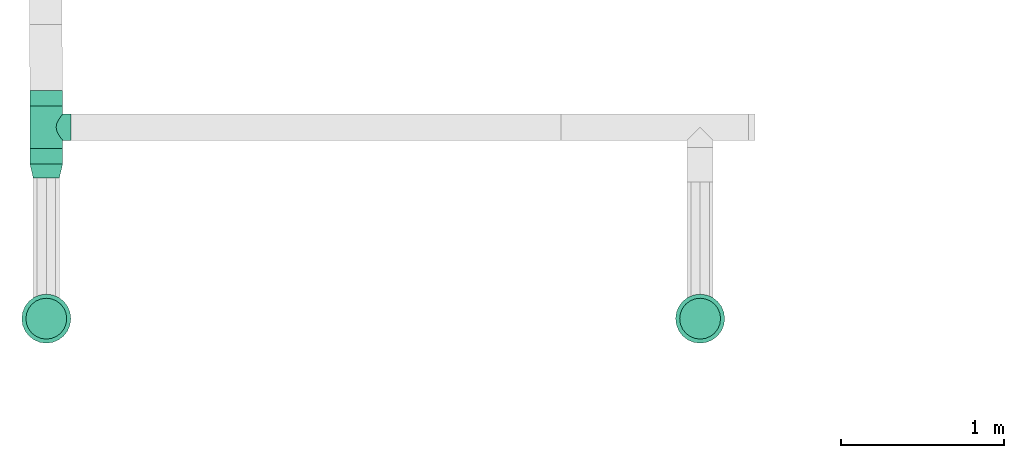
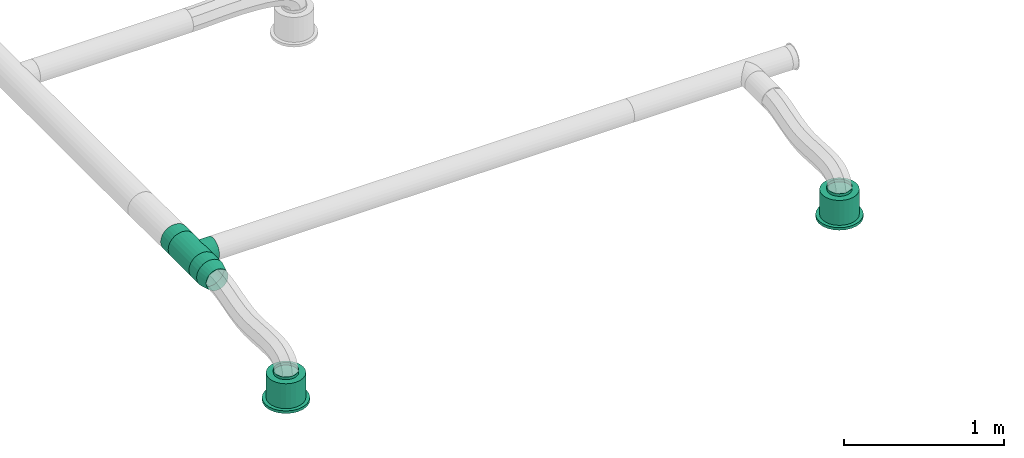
# One storey, part 7 of 119: 2 flow fittings, 2 flow segments, 2 flow terminals.
"""IFC2X3 building model written with IfcOpenShell, lengths in metres."""

from ifc_helpers import new_model, si_unit, direction, frame, origin, place, context, subcontext, project, spatial, open_shell, surface_model, source, transform, mapped, element, save


model = new_model("IFC2X3")

# Units and contexts
model_context = context("Model", 3, precision=1e-05, world=origin(), true_north=direction((-0.4480736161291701, 0.8939966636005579)))
body_context = subcontext(model_context, "Body", "Model", "MODEL_VIEW")
ifc_project = project(units=[si_unit("LENGTHUNIT", "METRE"), si_unit("AREAUNIT", "SQUARE_METRE"), si_unit("VOLUMEUNIT", "CUBIC_METRE"), si_unit("PLANEANGLEUNIT", "RADIAN"), si_unit("THERMODYNAMICTEMPERATUREUNIT", "KELVIN"), si_unit("MASSUNIT", "GRAM", prefix="KILO"), si_unit("TIMEUNIT", "SECOND")], contexts=[model_context])

# Site, building, storey
site_placement = place(None, origin())
site = spatial("IfcSite", under=ifc_project, at=site_placement, Name="Site 1", CompositionType="ELEMENT")
building_placement = place(site_placement, origin())
building = spatial("IfcBuilding", under=site, at=building_placement, Name="Undefined", CompositionType="ELEMENT")
storey_placement = place(building_placement, frame((0.0, 0.0, 5.4)))
storey = spatial("IfcBuildingStorey", under=building, at=storey_placement, Name="R+1", CompositionType="ELEMENT", Elevation=5.4)

# Flow terminals
shared_shape_1 = source(origin(), body_context, "Body", "SurfaceModel", [
    surface_model("IfcFaceBasedSurfaceModel", [(0.0, 0.0, 0.0), (0.03915785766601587, 0.0, 0.0), (0.03915785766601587, 0.020000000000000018, 0.0), (3.552713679e-15, 0.020000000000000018, 0.0), (0.07698144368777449, 0.0, -0.010134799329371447), (0.07698144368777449, 0.020000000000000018, -0.010134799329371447), (0.11089314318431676, 0.0, -0.02971372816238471), (0.11089314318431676, 0.020000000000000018, -0.02971372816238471), (0.13858192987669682, 0.0, -0.05740251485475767), (0.13858192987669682, 0.020000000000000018, -0.05740251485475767), (0.15816085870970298, 0.0, -0.09131421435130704), (0.15816085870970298, 0.020000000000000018, -0.09131421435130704), (0.16829565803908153, 0.0, -0.12913780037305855), (0.16829565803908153, 0.020000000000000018, -0.12913780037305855), (0.16829565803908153, 0.0, -0.16829565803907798), (0.16829565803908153, 0.020000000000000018, -0.16829565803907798), (0.15816085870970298, 0.0, -0.20611924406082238), (0.15816085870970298, 0.020000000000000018, -0.20611924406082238), (0.13858192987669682, 0.0, -0.24003094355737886), (0.13858192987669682, 0.020000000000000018, -0.24003094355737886), (0.11089314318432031, 0.0, -0.2677197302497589), (0.11089314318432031, 0.020000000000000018, -0.2677197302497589), (0.07698144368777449, 0.0, -0.2872986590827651), (0.07698144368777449, 0.020000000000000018, -0.2872986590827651), (0.039157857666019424, 0.0, -0.29743345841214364), (0.039157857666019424, 0.020000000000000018, -0.29743345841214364), (3.552713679e-15, 0.0, -0.29743345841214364), (3.552713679e-15, 0.020000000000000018, -0.29743345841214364), (-0.03782358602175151, 0.0, -0.2872986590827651), (-0.03782358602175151, 0.020000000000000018, -0.2872986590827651), (-0.07173528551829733, 0.0, -0.2677197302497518), (-0.07173528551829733, 0.020000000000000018, -0.2677197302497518), (-0.0994240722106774, 0.0, -0.24003094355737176), (-0.0994240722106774, 0.020000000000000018, -0.24003094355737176), (-0.11900300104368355, 0.0, -0.2061192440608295), (-0.11900300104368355, 0.020000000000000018, -0.2061192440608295), (-0.1291378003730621, 0.0, -0.16829565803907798), (-0.1291378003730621, 0.020000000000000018, -0.16829565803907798), (-0.1291378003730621, 0.0, -0.12913780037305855), (-0.1291378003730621, 0.020000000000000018, -0.12913780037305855), (-0.11900300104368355, 0.0, -0.09131421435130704), (-0.11900300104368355, 0.020000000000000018, -0.09131421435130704), (-0.0994240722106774, 0.0, -0.05740251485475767), (-0.0994240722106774, 0.020000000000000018, -0.05740251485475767), (-0.07173528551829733, 0.0, -0.029713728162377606), (-0.07173528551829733, 0.020000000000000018, -0.029713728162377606), (-0.03782358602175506, 0.0, -0.010134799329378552), (-0.03782358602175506, 0.020000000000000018, -0.010134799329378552), (0.019578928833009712, 0.0, -0.14871672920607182), (0.019578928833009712, 0.020000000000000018, -0.14871672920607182), (0.003263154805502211, 0.020000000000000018, -0.02478612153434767), (0.035894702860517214, 0.020000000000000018, -0.02478612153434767), (0.035894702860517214, 0.20999999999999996, -0.02478612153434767), (0.003263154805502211, 0.20999999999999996, -0.02478612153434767), (0.06741435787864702, 0.020000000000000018, -0.033231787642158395), (0.06741435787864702, 0.20999999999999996, -0.033231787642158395), (0.0956741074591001, 0.020000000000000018, -0.04954756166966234), (0.0956741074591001, 0.20999999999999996, -0.04954756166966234), (0.11874809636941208, 0.020000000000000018, -0.07262155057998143), (0.11874809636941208, 0.20999999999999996, -0.07262155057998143), (0.13506387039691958, 0.020000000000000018, -0.10088130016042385), (0.13506387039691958, 0.20999999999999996, -0.10088130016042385), (0.1435095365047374, 0.020000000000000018, -0.13240095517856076), (0.1435095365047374, 0.20999999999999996, -0.13240095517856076), (0.1435095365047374, 0.020000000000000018, -0.16503250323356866), (0.1435095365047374, 0.20999999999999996, -0.16503250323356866), (0.13506387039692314, 0.020000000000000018, -0.19655215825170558), (0.13506387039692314, 0.20999999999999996, -0.19655215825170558), (0.11874809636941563, 0.020000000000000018, -0.2248119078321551), (0.11874809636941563, 0.20999999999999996, -0.2248119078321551), (0.09567410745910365, 0.020000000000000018, -0.24788589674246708), (0.09567410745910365, 0.20999999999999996, -0.24788589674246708), (0.06741435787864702, 0.020000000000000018, -0.26420167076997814), (0.06741435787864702, 0.20999999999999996, -0.26420167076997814), (0.035894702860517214, 0.020000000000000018, -0.27264733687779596), (0.035894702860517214, 0.20999999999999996, -0.27264733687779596), (0.0032631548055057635, 0.020000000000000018, -0.27264733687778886), (0.0032631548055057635, 0.20999999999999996, -0.27264733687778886), (-0.028256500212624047, 0.020000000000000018, -0.26420167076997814), (-0.028256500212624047, 0.20999999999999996, -0.26420167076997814), (-0.05651624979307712, 0.020000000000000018, -0.2478858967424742), (-0.05651624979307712, 0.20999999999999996, -0.2478858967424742), (-0.07959023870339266, 0.020000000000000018, -0.2248119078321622), (-0.07959023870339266, 0.20999999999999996, -0.2248119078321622), (-0.09590601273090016, 0.020000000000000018, -0.19655215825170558), (-0.09590601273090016, 0.20999999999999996, -0.19655215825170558), (-0.10435167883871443, 0.020000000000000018, -0.16503250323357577), (-0.10435167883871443, 0.20999999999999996, -0.16503250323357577), (-0.10435167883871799, 0.020000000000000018, -0.13240095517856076), (-0.10435167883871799, 0.20999999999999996, -0.13240095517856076), (-0.09590601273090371, 0.020000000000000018, -0.10088130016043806), (-0.09590601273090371, 0.20999999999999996, -0.10088130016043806), (-0.07959023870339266, 0.020000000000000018, -0.07262155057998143), (-0.07959023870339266, 0.20999999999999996, -0.07262155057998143), (-0.056516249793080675, 0.020000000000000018, -0.04954756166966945), (-0.056516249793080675, 0.20999999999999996, -0.04954756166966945), (-0.028256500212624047, 0.020000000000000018, -0.033231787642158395), (-0.028256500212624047, 0.20999999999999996, -0.033231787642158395), (0.019578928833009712, 0.20999999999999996, -0.14871672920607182), (0.009136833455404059, 0.20999999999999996, -0.06940114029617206), (0.030021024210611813, 0.20999999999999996, -0.06940114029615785), (0.030021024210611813, 0.22999999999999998, -0.06940114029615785), (0.009136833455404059, 0.22999999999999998, -0.06940114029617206), (0.05019360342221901, 0.20999999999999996, -0.07480636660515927), (0.05019360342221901, 0.22999999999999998, -0.07480636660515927), (0.06827984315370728, 0.20999999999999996, -0.08524846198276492), (0.06827984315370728, 0.22999999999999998, -0.08524846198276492), (0.0830471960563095, 0.20999999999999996, -0.10001581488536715), (0.0830471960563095, 0.22999999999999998, -0.10001581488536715), (0.0934892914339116, 0.20999999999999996, -0.11810205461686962), (0.0934892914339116, 0.22999999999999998, -0.11810205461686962), (0.09889451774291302, 0.20999999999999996, -0.13827463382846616), (0.09889451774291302, 0.22999999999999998, -0.13827463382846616), (0.09889451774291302, 0.20999999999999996, -0.15915882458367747), (0.09889451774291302, 0.22999999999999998, -0.15915882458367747), (0.09348929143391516, 0.20999999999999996, -0.179331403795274), (0.09348929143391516, 0.22999999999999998, -0.179331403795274), (0.0830471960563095, 0.20999999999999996, -0.19741764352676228), (0.0830471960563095, 0.22999999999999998, -0.19741764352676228), (0.06827984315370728, 0.20999999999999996, -0.2121849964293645), (0.06827984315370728, 0.22999999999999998, -0.2121849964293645), (0.05019360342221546, 0.20999999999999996, -0.22262709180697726), (0.05019360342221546, 0.22999999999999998, -0.22262709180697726), (0.030021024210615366, 0.20999999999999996, -0.22803231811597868), (0.030021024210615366, 0.22999999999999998, -0.22803231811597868), (0.009136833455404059, 0.20999999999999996, -0.22803231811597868), (0.009136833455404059, 0.22999999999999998, -0.22803231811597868), (-0.011035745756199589, 0.20999999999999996, -0.22262709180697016), (-0.011035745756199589, 0.22999999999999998, -0.22262709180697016), (-0.0291219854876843, 0.20999999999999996, -0.2121849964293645), (-0.0291219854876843, 0.22999999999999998, -0.2121849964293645), (-0.043889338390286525, 0.20999999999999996, -0.19741764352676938), (-0.043889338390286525, 0.22999999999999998, -0.19741764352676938), (-0.05433143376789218, 0.20999999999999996, -0.17933140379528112), (-0.05433143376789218, 0.22999999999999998, -0.17933140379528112), (-0.05973666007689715, 0.20999999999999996, -0.15915882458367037), (-0.05973666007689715, 0.22999999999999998, -0.15915882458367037), (-0.0597366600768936, 0.20999999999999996, -0.13827463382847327), (-0.0597366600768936, 0.22999999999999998, -0.13827463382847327), (-0.05433143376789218, 0.20999999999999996, -0.11810205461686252), (-0.05433143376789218, 0.22999999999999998, -0.11810205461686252), (-0.043889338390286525, 0.20999999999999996, -0.10001581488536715), (-0.043889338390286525, 0.22999999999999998, -0.10001581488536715), (-0.02912198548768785, 0.20999999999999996, -0.08524846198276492), (-0.02912198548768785, 0.22999999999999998, -0.08524846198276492), (-0.011035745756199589, 0.20999999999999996, -0.07480636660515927), (-0.011035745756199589, 0.22999999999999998, -0.07480636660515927)], [open_shell([[[0, 1, 2, 3]], [[1, 4, 5, 2]], [[4, 6, 7, 5]], [[6, 8, 9, 7]], [[8, 10, 11, 9]], [[10, 12, 13, 11]], [[12, 14, 15, 13]], [[14, 16, 17, 15]], [[16, 18, 19, 17]], [[18, 20, 21, 19]], [[20, 22, 23, 21]], [[22, 24, 25, 23]], [[24, 26, 27, 25]], [[26, 28, 29, 27]], [[28, 30, 31, 29]], [[30, 32, 33, 31]], [[32, 34, 35, 33]], [[34, 36, 37, 35]], [[36, 38, 39, 37]], [[38, 40, 41, 39]], [[40, 42, 43, 41]], [[42, 44, 45, 43]], [[44, 46, 47, 45]], [[46, 0, 3, 47]], [[48, 1, 0]], [[48, 4, 1]], [[48, 6, 4]], [[48, 8, 6]], [[48, 10, 8]], [[48, 12, 10]], [[48, 14, 12]], [[48, 16, 14]], [[48, 18, 16]], [[48, 20, 18]], [[48, 22, 20]], [[48, 24, 22]], [[48, 26, 24]], [[48, 28, 26]], [[48, 30, 28]], [[48, 32, 30]], [[48, 34, 32]], [[48, 36, 34]], [[48, 38, 36]], [[48, 40, 38]], [[48, 42, 40]], [[48, 44, 42]], [[48, 46, 44]], [[48, 0, 46]], [[49, 47, 3]], [[49, 45, 47]], [[49, 43, 45]], [[49, 41, 43]], [[49, 39, 41]], [[49, 37, 39]], [[49, 35, 37]], [[49, 33, 35]], [[49, 31, 33]], [[49, 29, 31]], [[49, 27, 29]], [[49, 25, 27]], [[49, 23, 25]], [[49, 21, 23]], [[49, 19, 21]], [[49, 17, 19]], [[49, 15, 17]], [[49, 13, 15]], [[49, 11, 13]], [[49, 9, 11]], [[49, 7, 9]], [[49, 5, 7]], [[49, 2, 5]], [[49, 3, 2]], [[50, 51, 52, 53]], [[51, 54, 55, 52]], [[54, 56, 57, 55]], [[56, 58, 59, 57]], [[58, 60, 61, 59]], [[60, 62, 63, 61]], [[62, 64, 65, 63]], [[64, 66, 67, 65]], [[66, 68, 69, 67]], [[68, 70, 71, 69]], [[70, 72, 73, 71]], [[72, 74, 75, 73]], [[74, 76, 77, 75]], [[76, 78, 79, 77]], [[78, 80, 81, 79]], [[80, 82, 83, 81]], [[82, 84, 85, 83]], [[84, 86, 87, 85]], [[86, 88, 89, 87]], [[88, 90, 91, 89]], [[90, 92, 93, 91]], [[92, 94, 95, 93]], [[94, 96, 97, 95]], [[96, 50, 53, 97]], [[49, 51, 50]], [[49, 54, 51]], [[49, 56, 54]], [[49, 58, 56]], [[49, 60, 58]], [[49, 62, 60]], [[49, 64, 62]], [[49, 66, 64]], [[49, 68, 66]], [[49, 70, 68]], [[49, 72, 70]], [[49, 74, 72]], [[49, 76, 74]], [[49, 78, 76]], [[49, 80, 78]], [[49, 82, 80]], [[49, 84, 82]], [[49, 86, 84]], [[49, 88, 86]], [[49, 90, 88]], [[49, 92, 90]], [[49, 94, 92]], [[49, 96, 94]], [[49, 50, 96]], [[98, 97, 53]], [[98, 95, 97]], [[98, 93, 95]], [[98, 91, 93]], [[98, 89, 91]], [[98, 87, 89]], [[98, 85, 87]], [[98, 83, 85]], [[98, 81, 83]], [[98, 79, 81]], [[98, 77, 79]], [[98, 75, 77]], [[98, 73, 75]], [[98, 71, 73]], [[98, 69, 71]], [[98, 67, 69]], [[98, 65, 67]], [[98, 63, 65]], [[98, 61, 63]], [[98, 59, 61]], [[98, 57, 59]], [[98, 55, 57]], [[98, 52, 55]], [[98, 53, 52]], [[99, 100, 101, 102]], [[100, 103, 104, 101]], [[103, 105, 106, 104]], [[105, 107, 108, 106]], [[107, 109, 110, 108]], [[109, 111, 112, 110]], [[111, 113, 114, 112]], [[113, 115, 116, 114]], [[115, 117, 118, 116]], [[117, 119, 120, 118]], [[119, 121, 122, 120]], [[121, 123, 124, 122]], [[123, 125, 126, 124]], [[125, 127, 128, 126]], [[127, 129, 130, 128]], [[129, 131, 132, 130]], [[131, 133, 134, 132]], [[133, 135, 136, 134]], [[135, 137, 138, 136]], [[137, 139, 140, 138]], [[139, 141, 142, 140]], [[141, 143, 144, 142]], [[143, 145, 146, 144]], [[145, 99, 102, 146]]])]),
])
flow_terminal_1_placement = place(storey_placement, origin())
element("IfcFlowTerminal", 1, at=flow_terminal_1_placement, inside=storey, Name="Air diffuseur - bouche", ObjectType="Air diffuseur - bouche", context=body_context, shape_type="MappedRepresentation", body=[
    mapped(shared_shape_1, transform((2.28923878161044, 6.029998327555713, 2.355), x_axis=(-0.9914448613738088, -0.13052619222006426, 0.0), y_axis=(0.0, 0.0, 1.0), z_axis=(-0.13052619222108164, 0.9914448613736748, 0.0))),
])
flow_terminal_2_placement = place(storey_placement, origin())
element("IfcFlowTerminal", 2, at=flow_terminal_2_placement, inside=storey, Name="Air diffuseur - bouche", ObjectType="Air diffuseur - bouche", context=body_context, shape_type="MappedRepresentation", body=[
    mapped(shared_shape_1, transform((6.2892387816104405, 6.029998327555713, 2.355), x_axis=(-0.9914448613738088, -0.13052619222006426, 0.0), y_axis=(0.0, 0.0, 1.0), z_axis=(-0.13052619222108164, 0.9914448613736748, 0.0))),
])

# Flow segments
shared_shape_2 = source(origin(), body_context, "Body", "SurfaceModel", [
    surface_model("IfcFaceBasedSurfaceModel", [(0.0, 0.02610523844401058, 0.0), (0.0, 0.0, 0.0), (0.09500000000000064, -7.105427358e-15, 0.0), (0.09500000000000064, 0.02610523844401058, 0.0), (0.0, -0.025215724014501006, -0.006756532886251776), (0.09500000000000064, -0.025215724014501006, -0.006756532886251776), (0.0, -0.04782352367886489, -0.019809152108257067), (0.09500000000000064, -0.04782352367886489, -0.019809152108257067), (0.0, -0.066282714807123, -0.038268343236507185), (0.09500000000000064, -0.066282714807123, -0.038268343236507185), (0.0, -0.07933533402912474, -0.06087614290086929), (0.09500000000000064, -0.07933533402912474, -0.06087614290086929), (0.0, -0.08609186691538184, -0.08609186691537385), (0.09500000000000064, -0.08609186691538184, -0.08609186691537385), (0.0, -0.08609186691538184, -0.11219710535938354), (0.09500000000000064, -0.08609186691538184, -0.11219710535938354), (0.0, -0.07933533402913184, -0.1374128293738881), (0.09500000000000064, -0.07933533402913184, -0.1374128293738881), (0.0, -0.066282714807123, -0.16002062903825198), (0.09500000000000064, -0.066282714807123, -0.16002062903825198), (0.0, -0.04782352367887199, -0.17847982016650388), (0.09500000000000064, -0.04782352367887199, -0.17847982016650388), (0.0, -0.025215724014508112, -0.19153243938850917), (0.09500000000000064, -0.025215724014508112, -0.19153243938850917), (0.0, -7.105427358e-15, -0.19828897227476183), (0.09500000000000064, -7.105427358e-15, -0.19828897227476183), (0.0, 0.026105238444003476, -0.19828897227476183), (0.09500000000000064, 0.026105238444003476, -0.19828897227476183), (0.0, 0.05132096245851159, -0.19153243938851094), (0.09500000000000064, 0.05132096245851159, -0.19153243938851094), (0.0, 0.07392876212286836, -0.17847982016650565), (0.09500000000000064, 0.07392876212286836, -0.17847982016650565), (0.0, 0.09238795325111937, -0.16002062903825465), (0.09500000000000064, 0.09238795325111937, -0.16002062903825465), (0.0, 0.10544057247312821, -0.13741282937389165), (0.09500000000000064, 0.10544057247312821, -0.13741282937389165), (0.0, 0.11219710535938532, -0.11219710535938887), (0.09500000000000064, 0.11219710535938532, -0.11219710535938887), (0.0, 0.11219710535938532, -0.08609186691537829), (0.09500000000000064, 0.11219710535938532, -0.08609186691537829), (0.0, 0.10544057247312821, -0.06087614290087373), (0.09500000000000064, 0.10544057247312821, -0.06087614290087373), (0.0, 0.09238795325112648, -0.03826834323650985), (0.09500000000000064, 0.09238795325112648, -0.03826834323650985), (0.0, 0.07392876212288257, -0.019809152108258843), (0.09500000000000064, 0.07392876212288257, -0.019809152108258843), (0.0, 0.05132096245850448, -0.006756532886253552), (0.09500000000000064, 0.05132096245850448, -0.006756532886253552)], [open_shell([[[0, 1, 2, 3]], [[1, 4, 5, 2]], [[4, 6, 7, 5]], [[6, 8, 9, 7]], [[8, 10, 11, 9]], [[10, 12, 13, 11]], [[12, 14, 15, 13]], [[14, 16, 17, 15]], [[16, 18, 19, 17]], [[18, 20, 21, 19]], [[20, 22, 23, 21]], [[22, 24, 25, 23]], [[24, 26, 27, 25]], [[26, 28, 29, 27]], [[28, 30, 31, 29]], [[30, 32, 33, 31]], [[32, 34, 35, 33]], [[34, 36, 37, 35]], [[36, 38, 39, 37]], [[38, 40, 41, 39]], [[40, 42, 43, 41]], [[42, 44, 45, 43]], [[44, 46, 47, 45]], [[46, 0, 3, 47]]])]),
])
flow_segment_1_placement = place(storey_placement, origin())
element("IfcFlowSegment", 3, at=flow_segment_1_placement, inside=storey, Name="Manchon", ObjectType="Manchon", context=body_context, shape_type="MappedRepresentation", body=[
    mapped(shared_shape_2, transform((2.2633568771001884, 6.9213574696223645, 2.8465925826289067), x_axis=(0.0, -1.0, 0.0), y_axis=(0.9914448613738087, 0.0, 0.13052619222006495), z_axis=(-0.13052619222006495, 0.0, 0.9914448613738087))),
])
flow_segment_2_placement = place(storey_placement, origin())
element("IfcFlowSegment", 4, at=flow_segment_2_placement, inside=storey, Name="Manchon", ObjectType="Manchon", context=body_context, shape_type="MappedRepresentation", body=[
    mapped(shared_shape_2, transform((2.3151206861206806, 7.181357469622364, 2.84659258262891), x_axis=(0.0, 1.0, 0.0), y_axis=(-0.9914448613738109, 0.0, 0.1305261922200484), z_axis=(0.1305261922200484, 0.0, 0.9914448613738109))),
])

# Flow fittings
shared_shape_3 = source(origin(), body_context, "Body", "SurfaceModel", [
    surface_model("IfcFaceBasedSurfaceModel", [(0.000780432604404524, 0.02609357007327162, 7.105427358e-15), (0.0, 0.0, 0.0), (0.08732124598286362, 1.776356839e-15, 7.105427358e-15), (0.08794559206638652, 0.020874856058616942, 0.0), (0.0007804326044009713, -0.025250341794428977, -0.006579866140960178), (0.08794559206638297, -0.020200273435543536, -0.0052638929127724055), (0.003068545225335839, -0.047936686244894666, -0.0192911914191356), (0.08977608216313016, -0.03834934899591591, -0.015432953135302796), (0.00670840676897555, -0.06651299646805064, -0.03726772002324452), (0.09268797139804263, -0.05321039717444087, -0.029814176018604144), (0.011451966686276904, -0.07971332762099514, -0.059284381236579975), (0.0964828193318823, -0.06377066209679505, -0.047427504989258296), (0.016975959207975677, -0.08663809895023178, -0.08384077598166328), (0.10090201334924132, -0.06931047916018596, -0.06707262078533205), (0.022903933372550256, -0.08681539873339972, -0.10926342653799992), (0.10564439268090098, -0.06945231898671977, -0.08741074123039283), (0.028831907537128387, -0.08023314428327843, -0.13381982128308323), (0.1103867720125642, -0.06418651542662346, -0.10705585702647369), (0.03435590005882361, -0.06733990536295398, -0.15583648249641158), (0.11480596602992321, -0.05387192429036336, -0.12466918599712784), (0.03909945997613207, -0.04901433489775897, -0.1738130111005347), (0.11860081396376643, -0.03921146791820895, -0.1390504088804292), (0.042739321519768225, -0.026505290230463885, -0.18652433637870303), (0.1215127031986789, -0.021204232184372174, -0.14921946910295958), (0.045027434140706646, -0.001346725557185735, -0.1931042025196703), (0.12334319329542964, -0.0010773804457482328, -0.1544833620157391), (0.045807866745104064, 0.02474684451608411, -0.1931042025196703), (0.12396753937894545, 0.019797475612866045, -0.15448336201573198), (0.045027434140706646, 0.04999718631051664, -0.18652433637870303), (0.12334319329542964, 0.03999774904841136, -0.14921946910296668), (0.042739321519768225, 0.07268353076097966, -0.1738130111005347), (0.12151270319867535, 0.05814682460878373, -0.1390504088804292), (0.039099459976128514, 0.09125984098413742, -0.15583648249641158), (0.11860081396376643, 0.0730078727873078, -0.12466918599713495), (0.03435590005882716, 0.10446017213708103, -0.13381982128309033), (0.11480596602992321, 0.08356813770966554, -0.10705585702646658), (0.028831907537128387, 0.11138494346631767, -0.10926342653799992), (0.1103867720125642, 0.08910795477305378, -0.08741074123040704), (0.02290393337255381, 0.1115622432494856, -0.08384077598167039), (0.10564439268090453, 0.08924979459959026, -0.06707262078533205), (0.016975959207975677, 0.10497998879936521, -0.05928438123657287), (0.10090201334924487, 0.08398399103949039, -0.0474275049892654), (0.011451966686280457, 0.09208674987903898, -0.03726772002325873), (0.0964828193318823, 0.07366939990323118, -0.029814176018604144), (0.00670840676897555, 0.07376117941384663, -0.019291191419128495), (0.09268797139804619, 0.059008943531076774, -0.015432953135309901), (0.003068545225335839, 0.05125213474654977, -0.006579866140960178), (0.08977608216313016, 0.041001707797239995, -0.0052638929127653)], [open_shell([[[0, 1, 2, 3]], [[1, 4, 5, 2]], [[4, 6, 7, 5]], [[6, 8, 9, 7]], [[8, 10, 11, 9]], [[10, 12, 13, 11]], [[12, 14, 15, 13]], [[14, 16, 17, 15]], [[16, 18, 19, 17]], [[18, 20, 21, 19]], [[20, 22, 23, 21]], [[22, 24, 25, 23]], [[24, 26, 27, 25]], [[26, 28, 29, 27]], [[28, 30, 31, 29]], [[30, 32, 33, 31]], [[32, 34, 35, 33]], [[34, 36, 37, 35]], [[36, 38, 39, 37]], [[38, 40, 41, 39]], [[40, 42, 43, 41]], [[42, 44, 45, 43]], [[44, 46, 47, 45]], [[46, 0, 3, 47]]])]),
])
flow_fitting_1_placement = place(storey_placement, origin())
element("IfcFlowFitting", 5, at=flow_fitting_1_placement, inside=storey, Name="Réduction conique", ObjectType="Réduction conique", context=body_context, shape_type="MappedRepresentation", body=[
    mapped(shared_shape_3, transform((2.1926461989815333, 6.826357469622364, 2.724118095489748), x_axis=(0.22123500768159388, -0.9734171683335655, 0.05927974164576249), y_axis=(-0.13720147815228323, 0.029113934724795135, 0.99011521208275), z_axis=(-0.9655210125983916, -0.22718141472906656, -0.1271132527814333))),
])
shared_shape_4 = source(origin(), body_context, "Body", "SurfaceModel", [
    surface_model("IfcFaceBasedSurfaceModel", [(0.0, 0.02610523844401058, 0.0), (0.0, 0.0, 0.0), (0.2599999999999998, -7.105427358e-15, 0.0), (0.2599999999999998, 0.026105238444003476, -1.776356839e-15), (0.0, -0.025215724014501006, -0.006756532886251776), (0.2599999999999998, -0.025215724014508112, -0.006756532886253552), (0.0, -0.04782352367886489, -0.019809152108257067), (0.2599999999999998, -0.04782352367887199, -0.019809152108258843), (0.0, -0.066282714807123, -0.038268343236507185), (0.2599999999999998, -0.0662827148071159, -0.03826834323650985), (0.0, -0.07933533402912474, -0.06087614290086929), (0.2599999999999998, -0.07933533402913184, -0.060876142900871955), (0.0, -0.08609186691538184, -0.08609186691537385), (0.2599999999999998, -0.08609186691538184, -0.08609186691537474), (0.0, -0.08609186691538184, -0.11219710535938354), (0.2599999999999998, -0.08609186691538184, -0.1121971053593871), (0.0, -0.07933533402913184, -0.1374128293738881), (0.2599999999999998, -0.07933533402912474, -0.13741282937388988), (0.0, -0.066282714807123, -0.16002062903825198), (0.2599999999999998, -0.066282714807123, -0.16002062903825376), (0.0, -0.04782352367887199, -0.17847982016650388), (0.2599999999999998, -0.04782352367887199, -0.17847982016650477), (0.0, -0.025215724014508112, -0.19153243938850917), (0.2599999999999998, -0.025215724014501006, -0.19153243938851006), (0.0, -7.105427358e-15, -0.19828897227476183), (0.2599999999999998, -7.105427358e-15, -0.1982889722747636), (0.0, 0.026105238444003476, -0.19828897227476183), (0.2599999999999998, 0.026105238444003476, -0.19828897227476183), (0.0, 0.05132096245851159, -0.19153243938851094), (0.2599999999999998, 0.05132096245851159, -0.19153243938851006), (0.0, 0.07392876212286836, -0.17847982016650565), (0.2599999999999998, 0.07392876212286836, -0.17847982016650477), (0.0, 0.09238795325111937, -0.16002062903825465), (0.2599999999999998, 0.09238795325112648, -0.16002062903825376), (0.0, 0.10544057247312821, -0.13741282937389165), (0.2599999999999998, 0.10544057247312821, -0.13741282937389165), (0.0, 0.11219710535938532, -0.11219710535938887), (0.2599999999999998, 0.11219710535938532, -0.1121971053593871), (0.0, 0.11219710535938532, -0.08609186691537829), (0.2599999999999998, 0.11219710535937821, -0.08609186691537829), (0.0, 0.10544057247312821, -0.06087614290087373), (0.2599999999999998, 0.10544057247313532, -0.060876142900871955), (0.0, 0.09238795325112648, -0.03826834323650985), (0.2599999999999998, 0.09238795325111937, -0.03826834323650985), (0.0, 0.07392876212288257, -0.019809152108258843), (0.2599999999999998, 0.07392876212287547, -0.019809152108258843), (0.0, 0.05132096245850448, -0.006756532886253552), (0.2599999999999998, 0.05132096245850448, -0.006756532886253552), (0.20999999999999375, 0.11219710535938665, -0.11219710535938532), (0.2072740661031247, 0.10734595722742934, -0.13244263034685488), (0.2072740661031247, 0.15906673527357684, -0.13925179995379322), (0.20999999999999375, 0.16176934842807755, -0.11872341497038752), (0.19928203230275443, 0.09869899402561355, -0.15076520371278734), (0.19928203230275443, 0.15654830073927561, -0.15838120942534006), (0.18656854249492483, 0.08742558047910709, -0.16599254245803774), (0.18656854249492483, 0.15438567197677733, -0.1748080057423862), (0.1699999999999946, 0.07550360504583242, -0.17724617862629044), (0.1699999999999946, 0.15272622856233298, -0.18741272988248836), (0.15070552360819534, 0.06589550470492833, -0.18404224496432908), (0.15070552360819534, 0.15168305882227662, -0.19533639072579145), (0.12999999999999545, 0.06209721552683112, -0.18629164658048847), (0.12999999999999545, 0.15132725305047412, -0.1980390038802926), (0.10929447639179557, 0.06589550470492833, -0.18404224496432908), (0.10929447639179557, 0.15168305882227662, -0.19533639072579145), (0.0899999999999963, 0.07550360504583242, -0.17724617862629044), (0.0899999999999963, 0.15272622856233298, -0.18741272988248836), (0.07343145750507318, 0.08742558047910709, -0.16599254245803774), (0.07343145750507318, 0.15438567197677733, -0.1748080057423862), (0.06071796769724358, 0.09869899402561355, -0.15076520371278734), (0.06071796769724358, 0.15654830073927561, -0.15838120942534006), (0.052725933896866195, 0.10734595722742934, -0.13244263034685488), (0.052725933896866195, 0.15906673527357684, -0.13925179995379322), (0.04999999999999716, 0.11219710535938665, -0.11219710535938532), (0.04999999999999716, 0.16176934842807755, -0.11872341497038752), (0.052725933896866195, 0.11275118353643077, -0.09138586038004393), (0.052725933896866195, 0.16447196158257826, -0.09819502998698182), (0.06071796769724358, 0.10914108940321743, -0.07144961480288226), (0.06071796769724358, 0.16699039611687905, -0.07906562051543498), (0.07343145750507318, 0.10219293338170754, -0.053823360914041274), (0.07343145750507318, 0.16915302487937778, -0.06263882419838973), (0.0899999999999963, 0.09358984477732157, -0.03986754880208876), (0.0899999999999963, 0.17081246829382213, -0.05003410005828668), (0.10929447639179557, 0.0860680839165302, -0.030816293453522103), (0.10929447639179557, 0.1718556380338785, -0.04211043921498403), (0.12999999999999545, 0.08298140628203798, -0.027660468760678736), (0.12999999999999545, 0.17221144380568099, -0.039407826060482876), (0.15070552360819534, 0.0860680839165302, -0.030816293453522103), (0.15070552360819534, 0.1718556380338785, -0.04211043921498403), (0.1699999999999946, 0.09358984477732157, -0.03986754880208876), (0.1699999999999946, 0.17081246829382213, -0.05003410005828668), (0.18656854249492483, 0.10219293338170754, -0.053823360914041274), (0.18656854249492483, 0.16915302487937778, -0.06263882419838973), (0.19928203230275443, 0.10914108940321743, -0.07144961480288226), (0.19928203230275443, 0.16699039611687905, -0.07906562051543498), (0.2072740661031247, 0.11275118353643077, -0.09138586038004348), (0.2072740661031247, 0.16447196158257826, -0.09819502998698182)], [open_shell([[[0, 1, 2, 3]], [[1, 4, 5, 2]], [[4, 6, 7, 5]], [[6, 8, 9, 7]], [[8, 10, 11, 9]], [[10, 12, 13, 11]], [[12, 14, 15, 13]], [[14, 16, 17, 15]], [[16, 18, 19, 17]], [[18, 20, 21, 19]], [[20, 22, 23, 21]], [[22, 24, 25, 23]], [[24, 26, 27, 25]], [[26, 28, 29, 27]], [[28, 30, 31, 29]], [[30, 32, 33, 31]], [[32, 34, 35, 33]], [[34, 36, 37, 35]], [[36, 38, 39, 37]], [[38, 40, 41, 39]], [[40, 42, 43, 41]], [[42, 44, 45, 43]], [[44, 46, 47, 45]], [[46, 0, 3, 47]], [[48, 49, 50, 51]], [[49, 52, 53, 50]], [[52, 54, 55, 53]], [[54, 56, 57, 55]], [[56, 58, 59, 57]], [[58, 60, 61, 59]], [[60, 62, 63, 61]], [[62, 64, 65, 63]], [[64, 66, 67, 65]], [[66, 68, 69, 67]], [[68, 70, 71, 69]], [[70, 72, 73, 71]], [[72, 74, 75, 73]], [[74, 76, 77, 75]], [[76, 78, 79, 77]], [[78, 80, 81, 79]], [[80, 82, 83, 81]], [[82, 84, 85, 83]], [[84, 86, 87, 85]], [[86, 88, 89, 87]], [[88, 90, 91, 89]], [[90, 92, 93, 91]], [[92, 94, 95, 93]], [[94, 48, 51, 95]]])]),
])
flow_fitting_2_placement = place(storey_placement, origin())
element("IfcFlowFitting", 6, at=flow_fitting_2_placement, inside=storey, Name="Pièce en té 90°", ObjectType="Pièce en té 90°", context=body_context, shape_type="MappedRepresentation", body=[
    mapped(shared_shape_4, transform((2.2633568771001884, 6.9213574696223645, 2.6534074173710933), x_axis=(0.0, 1.0, 0.0), y_axis=(0.9914448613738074, 0.0, -0.13052619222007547), z_axis=(-0.13052619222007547, 0.0, -0.9914448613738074))),
])

save(model, "model.ifc")
